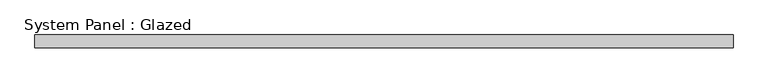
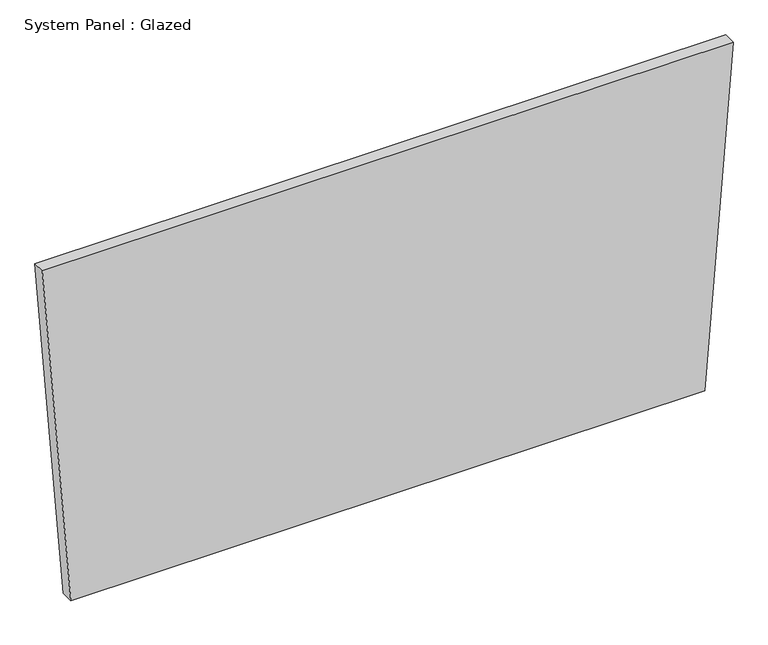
"""IFC4 building model written with IfcOpenShell, lengths in millimetres: plate geometry, System Panel : Glazed."""

from ifc_helpers import new_model, si_unit, frame, origin, place, context, project, spatial, polyline, outline, extrude, source, transform, mapped, element, save


def system_panel_glazed_9d362672(model_context):
    return source(origin(), model_context, "Body", "SweptSolid", [
        extrude(outline(polyline([(0.0068129, -638.7695985), (0.0, 638.7696473), (722.6195671, 696.2710282), (722.6269933, -696.2710282), (0.0068129, -638.7695985)])), frame((0.0, 19.05, 0.0), z_axis=(0.0, 1.0, 0.0), x_axis=(0.0, 0.0, 1.0)), (0.0, 0.0, 1.0), 25.4),
    ])


if __name__ == "__main__":
    model = new_model("IFC4")
    model_context = context("Model", 3, world=origin())
    ifc_project = project(units=[si_unit("LENGTHUNIT", "METRE", prefix="MILLI")], contexts=[model_context])
    site = spatial("IfcSite", under=ifc_project)
    building = spatial("IfcBuilding", under=site)
    placement = place(None, origin())
    system_panel_glazed_shape = system_panel_glazed_9d362672(model_context)
    element("IfcPlate", 1, ObjectType="System Panel : Glazed", at=placement, inside=building, context=model_context, shape_type="MappedRepresentation", body=[
        mapped(system_panel_glazed_shape, transform((0.0, 0.0, 0.0), x_axis=(1.0, 0.0, 0.0), y_axis=(0.0, 1.0, 0.0), z_axis=(0.0, 0.0, 1.0))),
    ])
    save(model, "model.ifc")
